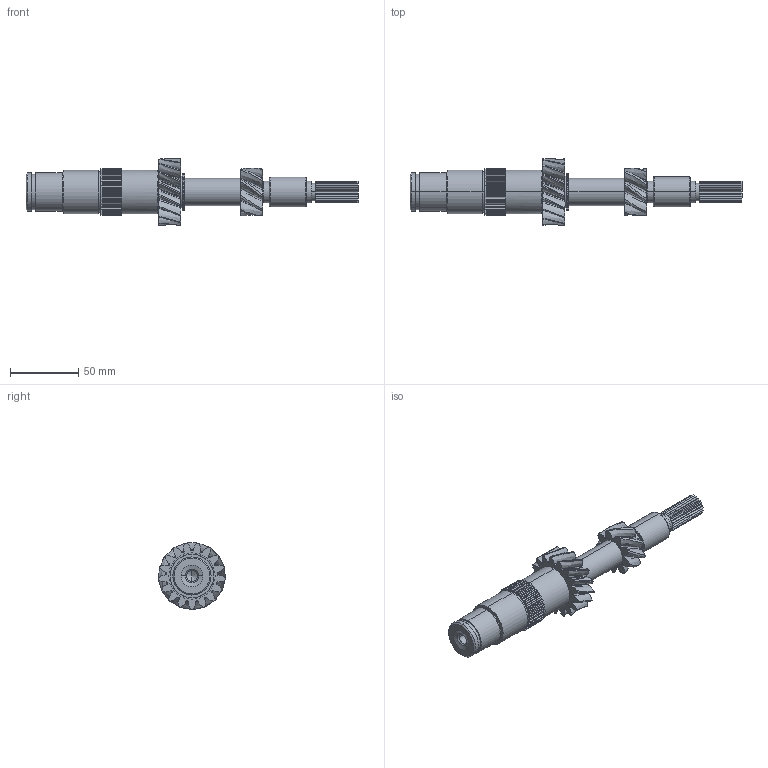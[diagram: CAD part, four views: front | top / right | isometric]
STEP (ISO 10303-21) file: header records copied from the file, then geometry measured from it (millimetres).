
FILE_DESCRIPTION(('STEP AP214'),'1');
FILE_NAME('e.stp','2020-09-14T13:46:56',(' '),(' '),'Spatial InterOp 3D',' ',' ');
FILE_SCHEMA(('AUTOMOTIVE_DESIGN { 1 0 10303 214 1 1 1 1 }'));
Length unit declared in the file: metre
Products named in the file (5): Arbre d'entrée; 1; 2; entretoise; arbre
Assembly tree (4 placements, depth 2):
  Arbre d'entrée
    1
    2
    entretoise
    arbre
Bounding box: 243.5 x 48.93 x 49 mm (x, y, z)
Volume: 139457.6 mm3; surface area: 39415.4 mm2
Topology: 4 solids, 4 shells, 845 faces, 2449 edges, 1626 vertices
Faces by surface type: plane 462, cylinder 266, bspline 95, cone 14, torus 8
Entity records: 31513 total; most frequent: CARTESIAN_POINT 9486, ORIENTED_EDGE 4890, DIRECTION 4220, EDGE_CURVE 2445, VERTEX_POINT 1626, LINE 1448, VECTOR 1448, AXIS2_PLACEMENT_3D 1386
